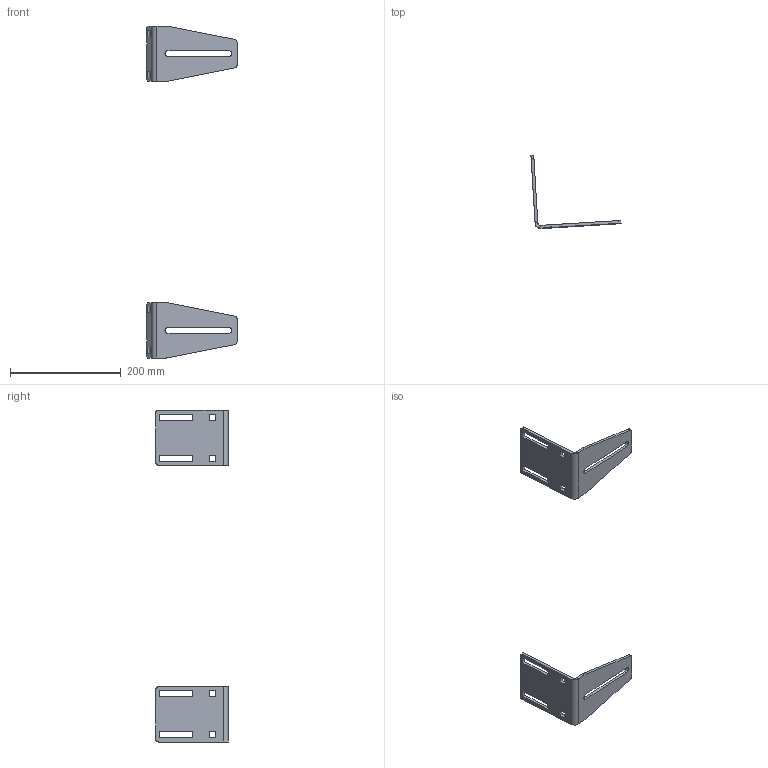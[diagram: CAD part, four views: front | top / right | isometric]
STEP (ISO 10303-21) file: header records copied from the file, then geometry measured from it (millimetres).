
FILE_DESCRIPTION(/* description */ (''),/* implementation_level */ '2;1');
FILE_NAME(/* name */ 'D:\VDV Techniek\Documents\Inventor\_ISP_Products\Narrow Walkway SS Gate\IGS-STP\Narrow Walkway SS Gate mounting brackets.stp',/* time_stamp */ '2024-12-15T18:59:06+01:00',/* author */ ('jos'),/* organization */ (''),/* preprocessor_version */ 'ST-DEVELOPER v15.2',/* originating_system */ 'Autodesk Inventor 2014',/* authorisation */ '');
FILE_SCHEMA (('AUTOMOTIVE_DESIGN { 1 0 10303 214 3 1 1 }'));
Length unit declared in the file: millimetre
Products named in the file (2): Small SS Gate_Mounting_Bracket; Narrow Walkway SS Gate mounting brackets
Assembly tree (2 placements, depth 2):
  Narrow Walkway SS Gate mounting brackets
    Small SS Gate_Mounting_Bracket  x2
Bounding box: 162.77 x 131.45 x 600 mm (x, y, z)
Volume: 218186.1 mm3; surface area: 100594.6 mm2
Topology: 2 solids, 2 shells, 84 faces, 224 edges, 144 vertices
Faces by surface type: plane 64, cylinder 20
Entity records: 1364 total; most frequent: CARTESIAN_POINT 230, ORIENTED_EDGE 224, DIRECTION 224, EDGE_CURVE 112, LINE 92, VECTOR 92, VERTEX_POINT 72, AXIS2_PLACEMENT_3D 66
